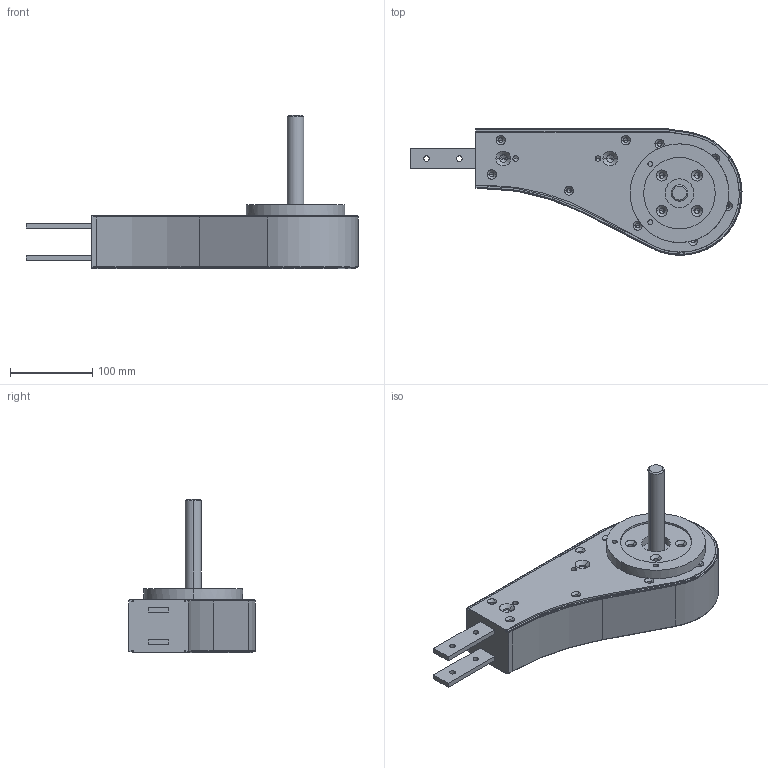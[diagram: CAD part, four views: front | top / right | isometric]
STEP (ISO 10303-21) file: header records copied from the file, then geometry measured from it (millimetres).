
FILE_DESCRIPTION (( 'STEP AP214' ), '1' );
FILE_NAME ('FSDD GP 0R.step', '2017-04-07T11:09:30', ( '' ), ( '' ), 'SwSTEP 2.0', 'SolidWorks 2016', '' );
FILE_SCHEMA (( 'AUTOMOTIVE_DESIGN' ));
Length unit declared in the file: millimetre
Products named in the file (1): FSDD GP 0R
Bounding box: 403.6 x 153.55 x 186.3 mm (x, y, z)
Volume: 2433581.7 mm3; surface area: 158064.8 mm2
Topology: 1 solids, 1 shells, 346 faces, 833 edges, 462 vertices
Faces by surface type: cone 143, cylinder 125, plane 62, bspline 16
Entity records: 10760 total; most frequent: CARTESIAN_POINT 1870, DIRECTION 1749, ORIENTED_EDGE 1530, EDGE_CURVE 765, AXIS2_PLACEMENT_3D 677, VERTEX_POINT 462, VECTOR 395, EDGE_LOOP 395
